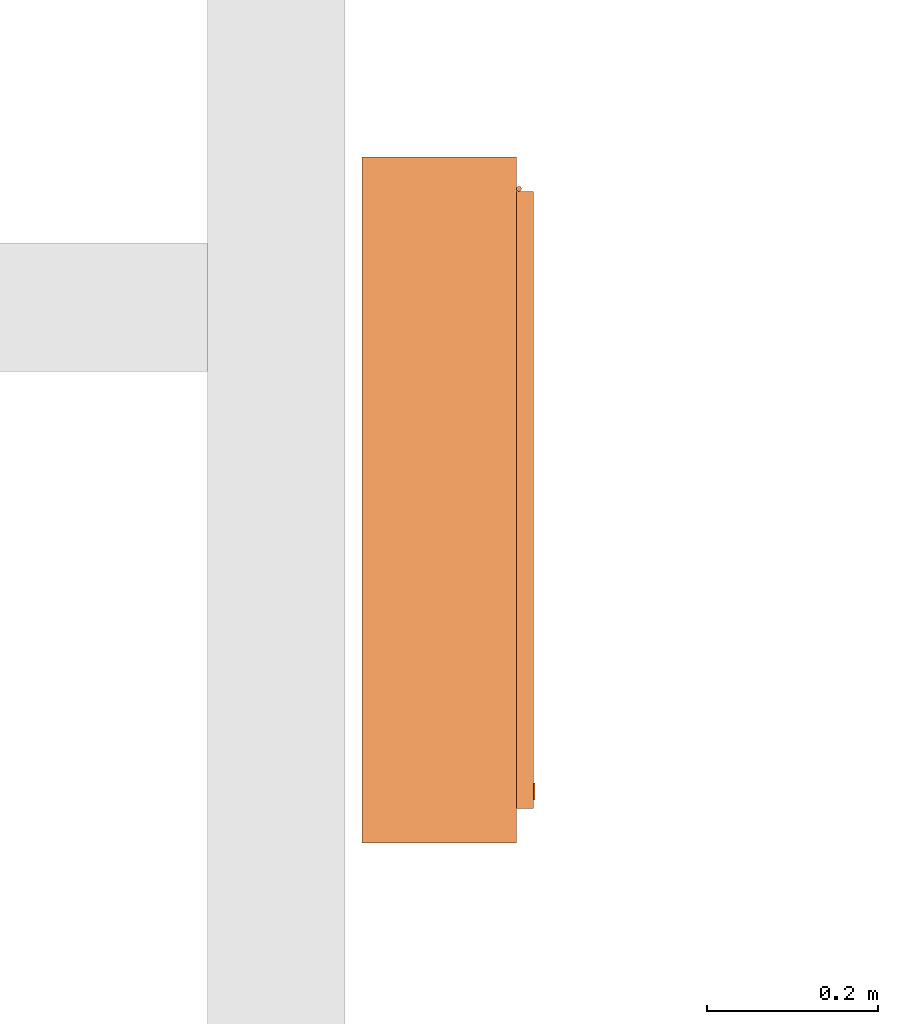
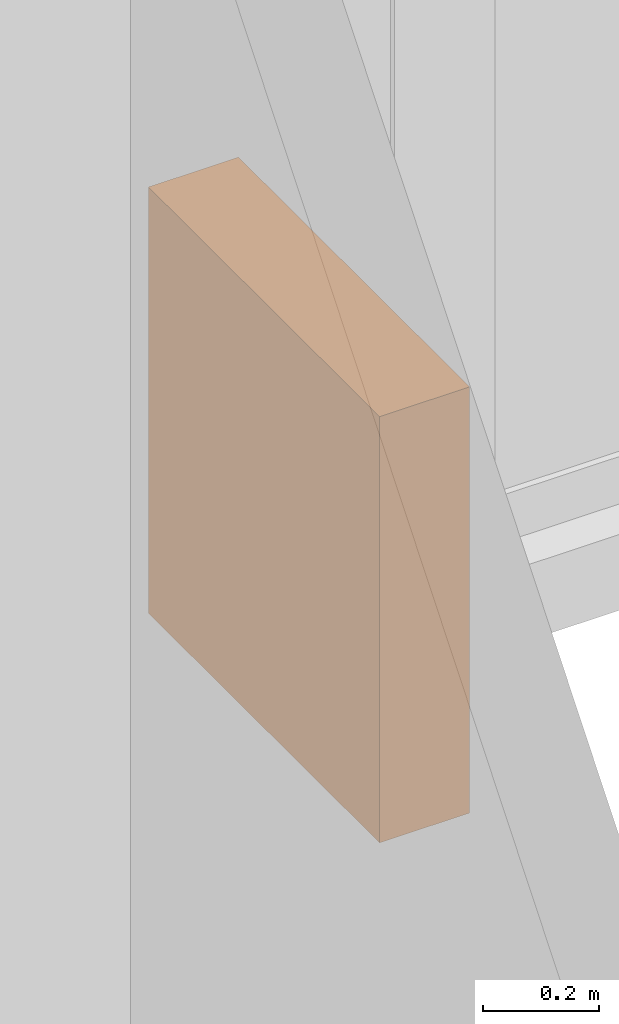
# One storey, part 10 of 64: 1 proxy.
"""IFC2X3 building model written with IfcOpenShell, lengths in millimetres."""

from ifc_helpers import new_model, entity, si_unit, converted_unit, derived_unit, money_unit, direction, frame, origin_with_axes, place, context, subcontext, project, spatial, faceted_brep, source, transform, mapped, type_object, element, save


model = new_model("IFC2X3")

# Units and contexts
model_context = context("Model", 3, precision=0.01, world=origin_with_axes(), true_north=direction((0.34421633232, 0.938890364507)))
body_context = subcontext(model_context, "Body", "Model", "MODEL_VIEW")
ifc_project = project(units=[si_unit("LENGTHUNIT", "METRE", prefix="MILLI"), si_unit("AREAUNIT", "SQUARE_METRE"), si_unit("VOLUMEUNIT", "CUBIC_METRE"), converted_unit("PLANEANGLEUNIT", "DEGREE", entity("IfcPlaneAngleMeasure", 0.0174532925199), si_unit("PLANEANGLEUNIT", "RADIAN"), dimensions=[0, 0, 0, 0, 0, 0, 0]), si_unit("SOLIDANGLEUNIT", "STERADIAN"), money_unit("USD"), converted_unit("TIMEUNIT", "Year", entity("IfcTimeMeasure", 31556926.0), si_unit("TIMEUNIT", "SECOND"), dimensions=[0, 0, 1, 0, 0, 0, 0]), si_unit("MASSUNIT", "GRAM", prefix="KILO"), si_unit("THERMODYNAMICTEMPERATUREUNIT", "DEGREE_CELSIUS"), si_unit("LUMINOUSINTENSITYUNIT", "LUMEN"), si_unit("ENERGYUNIT", "JOULE", prefix="MEGA"), derived_unit("THERMALCONDUCTANCEUNIT", [(si_unit("POWERUNIT", "WATT"), 1), (si_unit("LENGTHUNIT", "METRE"), -1), (si_unit("THERMODYNAMICTEMPERATUREUNIT", "KELVIN"), -1)]), derived_unit("SPECIFICHEATCAPACITYUNIT", [(si_unit("ENERGYUNIT", "JOULE"), 1), (si_unit("MASSUNIT", "GRAM", prefix="KILO"), -1), (si_unit("THERMODYNAMICTEMPERATUREUNIT", "KELVIN"), -1)]), derived_unit("MASSDENSITYUNIT", [(si_unit("MASSUNIT", "GRAM", prefix="KILO"), 1), (si_unit("VOLUMEUNIT", "CUBIC_METRE"), -1)])], contexts=[model_context])

# Site, building, storey
site_placement = place(None, origin_with_axes())
site = spatial("IfcSite", under=ifc_project, at=site_placement, Name="USTRONIE MORSKIE", CompositionType="ELEMENT")
building_placement = place(site_placement, origin_with_axes())
building = spatial("IfcBuilding", under=site, at=building_placement, Name="Budynek", CompositionType="ELEMENT")
storey_placement = place(building_placement, frame((0.0, 0.0, 7000.0), z_axis=(0.0, 0.0, 1.0), x_axis=(1.0, 0.0, 0.0)))
storey = spatial("IfcBuildingStorey", under=building, at=storey_placement, Name="PIĘTRO 2", CompositionType="ELEMENT", Elevation=7000.0)

# Proxy
building_element_proxy_type = type_object("IfcBuildingElementProxyType", Name="Skrzynka P-Poż 23", PredefinedType="NOTDEFINED")
shared_shape = source(origin_with_axes(), body_context, "Body", "Brep", [
    faceted_brep([(0.0, 40.0, 0.0), (0.0, 20.0, 0.0), (-800.0, 20.0, 0.0), (-800.0, 40.0, 0.0), (0.0, 40.0, 900.0), (0.0, 20.0, 900.0), (-800.0, 20.0, 900.0), (-60.0, 20.0, 60.0), (-740.0, 20.0, 60.0), (-740.0, 20.0, 840.0), (-60.0, 20.0, 840.0), (-800.0, 40.0, 900.0), (-60.0, 40.0, 60.0), (-60.0, 40.0, 840.0), (-740.0, 40.0, 840.0), (-740.0, 40.0, 60.0)], [[[0, 1, 2, 3]], [[4, 5, 1, 0]], [[1, 5, 6, 2], [7, 8, 9, 10]], [[3, 2, 6, 11]], [[0, 3, 11, 4], [12, 13, 14, 15]], [[11, 6, 5, 4]], [[15, 8, 7, 12]], [[14, 9, 8, 15]], [[13, 10, 9, 14]], [[12, 7, 10, 13]]]),
    faceted_brep([(-40.0, 20.0, 40.0), (-40.0, 0.0, 40.0), (-760.0, 0.0, 40.0), (-760.0, 20.0, 40.0), (-40.0, 20.0, 860.0), (-40.0, 0.0, 860.0), (-760.0, 0.0, 860.0), (-80.0, 0.0, 80.0), (-720.0, 0.0, 80.0), (-720.0, 0.0, 820.0), (-80.0, 0.0, 820.0), (-760.0, 20.0, 860.0), (-80.0, 20.0, 80.0), (-80.0, 20.0, 820.0), (-720.0, 20.0, 820.0), (-720.0, 20.0, 80.0)], [[[0, 1, 2, 3]], [[4, 5, 1, 0]], [[1, 5, 6, 2], [7, 8, 9, 10]], [[3, 2, 6, 11]], [[0, 3, 11, 4], [12, 13, 14, 15]], [[11, 6, 5, 4]], [[15, 8, 7, 12]], [[14, 9, 8, 15]], [[13, 10, 9, 14]], [[12, 7, 10, 13]]]),
    faceted_brep([(0.0, 180.0, 0.0), (0.0, 40.0, 0.0), (-800.0, 40.0, 0.0), (-800.0, 180.0, 0.0), (0.0, 180.0, 900.0), (0.0, 40.0, 900.0), (-800.0, 40.0, 900.0), (-20.0, 40.0, 20.0), (-780.0, 40.0, 20.0), (-780.0, 40.0, 880.0), (-20.0, 40.0, 880.0), (-800.0, 180.0, 900.0), (-20.0, 180.0, 20.0), (-20.0, 180.0, 880.0), (-780.0, 180.0, 880.0), (-780.0, 180.0, 20.0)], [[[0, 1, 2, 3]], [[4, 5, 1, 0]], [[1, 5, 6, 2], [7, 8, 9, 10]], [[3, 2, 6, 11]], [[0, 3, 11, 4], [12, 13, 14, 15]], [[11, 6, 5, 4]], [[15, 8, 7, 12]], [[14, 9, 8, 15]], [[13, 10, 9, 14]], [[12, 7, 10, 13]]]),
    faceted_brep([(0.0, 200.0, 0.0), (0.0, 180.0, 0.0), (-800.0, 180.0, 0.0), (-800.0, 200.0, 0.0), (0.0, 200.0, 900.0), (0.0, 180.0, 900.0), (-800.0, 180.0, 900.0), (-800.0, 200.0, 900.0)], [[[0, 1, 2, 3]], [[4, 5, 1, 0]], [[1, 5, 6, 2]], [[3, 2, 6, 7]], [[0, 3, 7, 4]], [[7, 6, 5, 4]]]),
    faceted_brep([(-80.0, 15.0, 80.0), (-80.0, 5.0, 80.0), (-720.0, 5.0, 80.0), (-720.0, 15.0, 80.0), (-80.0, 15.0, 820.0), (-80.0, 5.0, 820.0), (-720.0, 5.0, 820.0), (-720.0, 15.0, 820.0)], [[[0, 1, 2, 3]], [[4, 5, 1, 0]], [[1, 5, 6, 2]], [[3, 2, 6, 7]], [[0, 3, 7, 4]], [[7, 6, 5, 4]]]),
    faceted_brep([(-749.659258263, 0.0, 447.411809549), (-750.0, 0.0, 450.0), (-749.659258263, 0.0, 452.588190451), (-748.660254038, 0.0, 455.0), (-747.071067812, 0.0, 457.071067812), (-745.0, 0.0, 458.660254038), (-742.588190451, 0.0, 459.659258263), (-740.0, 0.0, 460.0), (-737.411809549, 0.0, 459.659258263), (-735.0, 0.0, 458.660254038), (-732.928932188, 0.0, 457.071067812), (-731.339745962, 0.0, 455.0), (-730.340741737, 0.0, 452.588190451), (-730.0, 0.0, 450.0), (-730.340741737, 0.0, 447.411809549), (-731.339745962, 0.0, 445.0), (-732.928932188, 0.0, 442.928932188), (-735.0, 0.0, 441.339745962), (-737.411809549, 0.0, 440.340741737), (-740.0, 0.0, 440.0), (-742.588190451, 0.0, 440.340741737), (-745.0, 0.0, 441.339745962), (-747.071067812, 0.0, 442.928932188), (-748.660254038, 0.0, 445.0), (-749.659258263, -2.0, 447.411809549), (-750.0, -2.0, 450.0), (-749.659258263, -2.0, 452.588190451), (-748.660254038, -2.0, 455.0), (-747.071067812, -2.0, 457.071067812), (-745.0, -2.0, 458.660254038), (-742.588190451, -2.0, 459.659258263), (-740.0, -2.0, 460.0), (-737.411809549, -2.0, 459.659258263), (-735.0, -2.0, 458.660254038), (-732.928932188, -2.0, 457.071067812), (-731.339745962, -2.0, 455.0), (-730.340741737, -2.0, 452.588190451), (-730.0, -2.0, 450.0), (-730.340741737, -2.0, 447.411809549), (-731.339745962, -2.0, 445.0), (-732.928932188, -2.0, 442.928932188), (-735.0, -2.0, 441.339745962), (-737.411809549, -2.0, 440.340741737), (-740.0, -2.0, 440.0), (-742.588190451, -2.0, 440.340741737), (-745.0, -2.0, 441.339745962), (-747.071067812, -2.0, 442.928932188), (-748.660254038, -2.0, 445.0)], [[[0, 1, 2, 3, 4, 5, 6, 7, 8, 9, 10, 11, 12, 13, 14, 15, 16, 17, 18, 19, 20, 21, 22, 23]], [[0, 24, 25, 1]], [[1, 25, 26, 2]], [[2, 26, 27, 3]], [[3, 27, 28, 4]], [[4, 28, 29, 5]], [[5, 29, 30, 6]], [[6, 30, 31, 7]], [[7, 31, 32, 8]], [[8, 32, 33, 9]], [[9, 33, 34, 10]], [[10, 34, 35, 11]], [[11, 35, 36, 12]], [[12, 36, 37, 13]], [[13, 37, 38, 14]], [[14, 38, 39, 15]], [[15, 39, 40, 16]], [[16, 40, 41, 17]], [[17, 41, 42, 18]], [[18, 42, 43, 19]], [[19, 43, 44, 20]], [[20, 44, 45, 21]], [[21, 45, 46, 22]], [[22, 46, 47, 23]], [[23, 47, 24, 0]], [[24, 47, 46, 45, 44, 43, 42, 41, 40, 39, 38, 37, 36, 35, 34, 33, 32, 31, 30, 29, 28, 27, 26, 25]]]),
    faceted_brep([(-39.8977774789, 16.2235428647, 80.0), (-40.0, 17.0, 80.0), (-39.8977774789, 17.7764571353, 80.0), (-39.5980762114, 18.5, 80.0), (-39.1213203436, 19.1213203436, 80.0), (-38.5, 19.5980762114, 80.0), (-37.7764571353, 19.8977774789, 80.0), (-37.0, 20.0, 80.0), (-36.2235428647, 19.8977774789, 80.0), (-35.5, 19.5980762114, 80.0), (-34.8786796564, 19.1213203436, 80.0), (-34.4019237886, 18.5, 80.0), (-34.1022225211, 17.7764571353, 80.0), (-34.0, 17.0, 80.0), (-34.1022225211, 16.2235428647, 80.0), (-34.4019237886, 15.5, 80.0), (-34.8786796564, 14.8786796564, 80.0), (-35.5, 14.4019237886, 80.0), (-36.2235428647, 14.1022225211, 80.0), (-37.0, 14.0, 80.0), (-37.7764571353, 14.1022225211, 80.0), (-38.5, 14.4019237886, 80.0), (-39.1213203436, 14.8786796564, 80.0), (-39.5980762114, 15.5, 80.0), (-39.8977774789, 16.2235428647, 120.0), (-40.0, 17.0, 120.0), (-39.8977774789, 17.7764571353, 120.0), (-39.5980762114, 18.5, 120.0), (-39.1213203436, 19.1213203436, 120.0), (-38.5, 19.5980762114, 120.0), (-37.7764571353, 19.8977774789, 120.0), (-37.0, 20.0, 120.0), (-36.2235428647, 19.8977774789, 120.0), (-35.5, 19.5980762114, 120.0), (-34.8786796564, 19.1213203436, 120.0), (-34.4019237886, 18.5, 120.0), (-34.1022225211, 17.7764571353, 120.0), (-34.0, 17.0, 120.0), (-34.1022225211, 16.2235428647, 120.0), (-34.4019237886, 15.5, 120.0), (-34.8786796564, 14.8786796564, 120.0), (-35.5, 14.4019237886, 120.0), (-36.2235428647, 14.1022225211, 120.0), (-37.0, 14.0, 120.0), (-37.7764571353, 14.1022225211, 120.0), (-38.5, 14.4019237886, 120.0), (-39.1213203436, 14.8786796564, 120.0), (-39.5980762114, 15.5, 120.0)], [[[0, 1, 2, 3, 4, 5, 6, 7, 8, 9, 10, 11, 12, 13, 14, 15, 16, 17, 18, 19, 20, 21, 22, 23]], [[0, 24, 25, 1]], [[1, 25, 26, 2]], [[2, 26, 27, 3]], [[3, 27, 28, 4]], [[4, 28, 29, 5]], [[5, 29, 30, 6]], [[6, 30, 31, 7]], [[7, 31, 32, 8]], [[8, 32, 33, 9]], [[9, 33, 34, 10]], [[10, 34, 35, 11]], [[11, 35, 36, 12]], [[12, 36, 37, 13]], [[13, 37, 38, 14]], [[14, 38, 39, 15]], [[15, 39, 40, 16]], [[16, 40, 41, 17]], [[17, 41, 42, 18]], [[18, 42, 43, 19]], [[19, 43, 44, 20]], [[20, 44, 45, 21]], [[21, 45, 46, 22]], [[22, 46, 47, 23]], [[23, 47, 24, 0]], [[24, 47, 46, 45, 44, 43, 42, 41, 40, 39, 38, 37, 36, 35, 34, 33, 32, 31, 30, 29, 28, 27, 26, 25]]]),
    faceted_brep([(-39.8977774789, 16.2235428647, 780.0), (-40.0, 17.0, 780.0), (-39.8977774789, 17.7764571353, 780.0), (-39.5980762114, 18.5, 780.0), (-39.1213203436, 19.1213203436, 780.0), (-38.5, 19.5980762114, 780.0), (-37.7764571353, 19.8977774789, 780.0), (-37.0, 20.0, 780.0), (-36.2235428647, 19.8977774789, 780.0), (-35.5, 19.5980762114, 780.0), (-34.8786796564, 19.1213203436, 780.0), (-34.4019237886, 18.5, 780.0), (-34.1022225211, 17.7764571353, 780.0), (-34.0, 17.0, 780.0), (-34.1022225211, 16.2235428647, 780.0), (-34.4019237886, 15.5, 780.0), (-34.8786796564, 14.8786796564, 780.0), (-35.5, 14.4019237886, 780.0), (-36.2235428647, 14.1022225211, 780.0), (-37.0, 14.0, 780.0), (-37.7764571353, 14.1022225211, 780.0), (-38.5, 14.4019237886, 780.0), (-39.1213203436, 14.8786796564, 780.0), (-39.5980762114, 15.5, 780.0), (-39.8977774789, 16.2235428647, 820.0), (-40.0, 17.0, 820.0), (-39.8977774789, 17.7764571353, 820.0), (-39.5980762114, 18.5, 820.0), (-39.1213203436, 19.1213203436, 820.0), (-38.5, 19.5980762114, 820.0), (-37.7764571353, 19.8977774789, 820.0), (-37.0, 20.0, 820.0), (-36.2235428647, 19.8977774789, 820.0), (-35.5, 19.5980762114, 820.0), (-34.8786796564, 19.1213203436, 820.0), (-34.4019237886, 18.5, 820.0), (-34.1022225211, 17.7764571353, 820.0), (-34.0, 17.0, 820.0), (-34.1022225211, 16.2235428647, 820.0), (-34.4019237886, 15.5, 820.0), (-34.8786796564, 14.8786796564, 820.0), (-35.5, 14.4019237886, 820.0), (-36.2235428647, 14.1022225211, 820.0), (-37.0, 14.0, 820.0), (-37.7764571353, 14.1022225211, 820.0), (-38.5, 14.4019237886, 820.0), (-39.1213203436, 14.8786796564, 820.0), (-39.5980762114, 15.5, 820.0)], [[[0, 1, 2, 3, 4, 5, 6, 7, 8, 9, 10, 11, 12, 13, 14, 15, 16, 17, 18, 19, 20, 21, 22, 23]], [[0, 24, 25, 1]], [[1, 25, 26, 2]], [[2, 26, 27, 3]], [[3, 27, 28, 4]], [[4, 28, 29, 5]], [[5, 29, 30, 6]], [[6, 30, 31, 7]], [[7, 31, 32, 8]], [[8, 32, 33, 9]], [[9, 33, 34, 10]], [[10, 34, 35, 11]], [[11, 35, 36, 12]], [[12, 36, 37, 13]], [[13, 37, 38, 14]], [[14, 38, 39, 15]], [[15, 39, 40, 16]], [[16, 40, 41, 17]], [[17, 41, 42, 18]], [[18, 42, 43, 19]], [[19, 43, 44, 20]], [[20, 44, 45, 21]], [[21, 45, 46, 22]], [[22, 46, 47, 23]], [[23, 47, 24, 0]], [[24, 47, 46, 45, 44, 43, 42, 41, 40, 39, 38, 37, 36, 35, 34, 33, 32, 31, 30, 29, 28, 27, 26, 25]]]),
])
proxy_placement = place(storey_placement, frame((357817.920919, 720401.199036, 600.0), z_axis=(0.0, 0.0, 1.0), x_axis=(0.0, 1.0, 0.0)))
element("IfcBuildingElementProxy", 1, at=proxy_placement, inside=storey, type_object=building_element_proxy_type, Name="OB3", context=body_context, shape_type="MappedRepresentation", body=[
    mapped(shared_shape, transform((0.0, 0.0, 0.0))),
])

save(model, "model.ifc")
